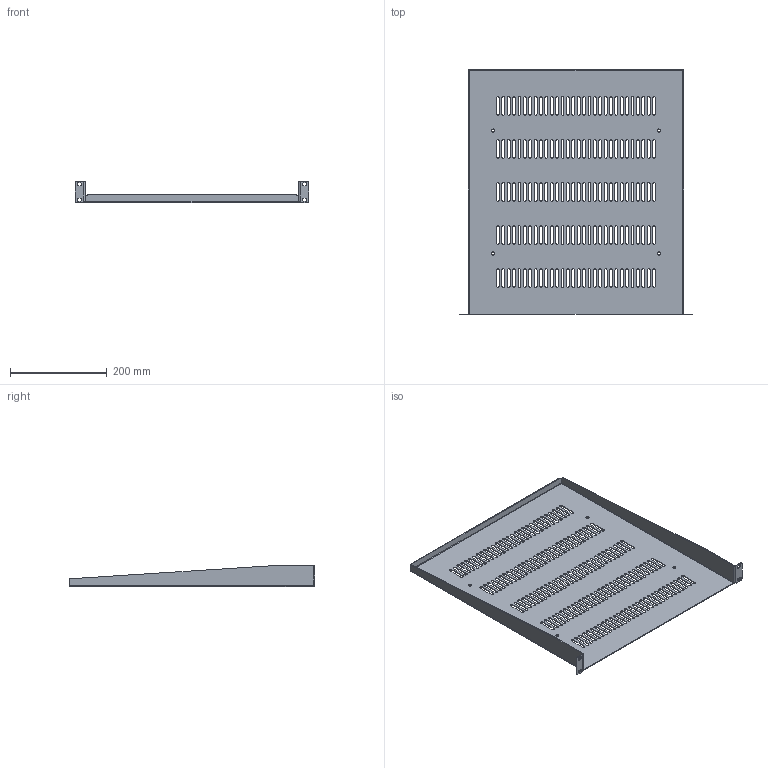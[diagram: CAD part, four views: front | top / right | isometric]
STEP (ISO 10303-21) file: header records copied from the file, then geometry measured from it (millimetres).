
FILE_DESCRIPTION( ( 'Unknown' ), '1' );
FILE_NAME( 'Q:/ACCESSORIES/SHELVES/RK _ RMA/WEB DRAWINGS/STEP/RASV190120.stp', 'Unknown', ( 'Unknown' ), ( 'Unknown' ), 'PSStep 10.1', 'Unknown', ' ' );
FILE_SCHEMA( ( 'AUTOMOTIVE_DESIGN { 1 0 10303 214 1 1 1 1 }' ) );
Length unit declared in the file: millimetre
Products named in the file (1): 1
Bounding box: 482.75 x 508 x 43.64 mm (x, y, z)
Volume: 418497.7 mm3; surface area: 484676.8 mm2
Topology: 1 solids, 1 shells, 684 faces, 2026 edges, 1344 vertices
Faces by surface type: plane 348, cylinder 332, bspline 4
Full cylindrical faces by diameter (mm): 6.35 x4
Entity records: 23885 total; most frequent: CARTESIAN_POINT 4347, ORIENTED_EDGE 4044, DIRECTION 4028, EDGE_CURVE 2022, AXIS2_PLACEMENT_3D 1345, VERTEX_POINT 1344, LINE 1338, VECTOR 1338
